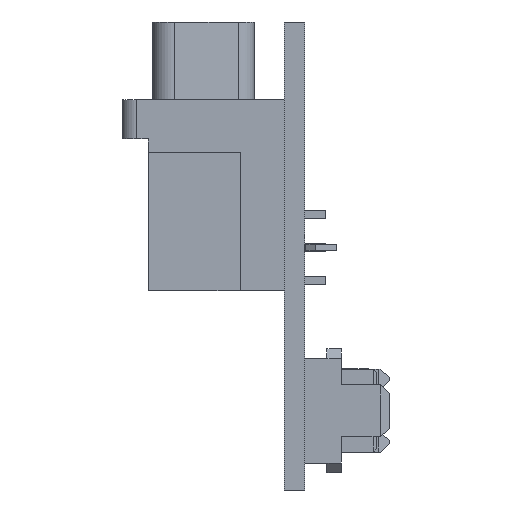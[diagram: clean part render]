
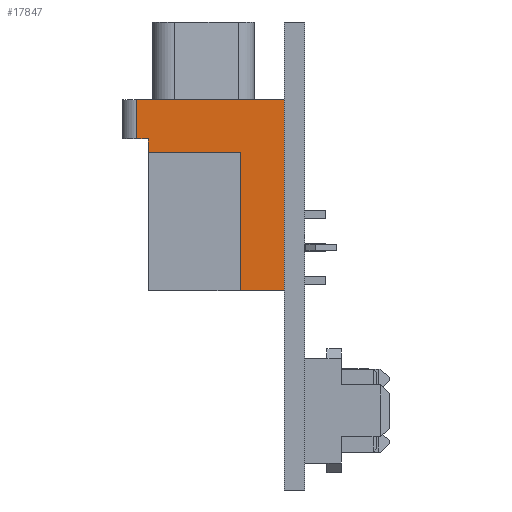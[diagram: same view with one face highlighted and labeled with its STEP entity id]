
A CAD part, front view. The second image highlights one B-rep face of the part: STEP entity #17847.
In plain terms, the highlighted planar face has unit normal (0, -1, 0).
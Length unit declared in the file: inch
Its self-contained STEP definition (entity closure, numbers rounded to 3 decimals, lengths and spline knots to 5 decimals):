
#1069=DIRECTION('',(0.,0.,1.));
#1070=VECTOR('',#1069,0.582);
#1071=CARTESIAN_POINT('',(0.,1.50148,0.43064));
#1072=LINE('',#1071,#1070);
#5005=DIRECTION('',(1.,0.,0.));
#5006=VECTOR('',#5005,0.134);
#5007=CARTESIAN_POINT('',(-0.134,1.50148,0.43064));
#5008=LINE('',#5007,#5006);
#5025=DIRECTION('',(1.,0.,0.));
#5026=VECTOR('',#5025,0.449);
#5027=CARTESIAN_POINT('',(-0.449,1.50148,1.01264));
#5028=LINE('',#5027,#5026);
#5093=DIRECTION('',(0.,0.,1.));
#5094=VECTOR('',#5093,0.422);
#5095=CARTESIAN_POINT('',(-0.134,1.50148,0.43064));
#5096=LINE('',#5095,#5094);
#5097=DIRECTION('',(-1.,0.,0.));
#5098=VECTOR('',#5097,0.28);
#5099=CARTESIAN_POINT('',(-0.134,1.50148,0.85264));
#5100=LINE('',#5099,#5098);
#5101=DIRECTION('',(0.,0.,1.));
#5102=VECTOR('',#5101,0.04);
#5103=CARTESIAN_POINT('',(-0.414,1.50148,0.85264));
#5104=LINE('',#5103,#5102);
#5105=DIRECTION('',(1.,0.,0.));
#5106=VECTOR('',#5105,0.035);
#5107=CARTESIAN_POINT('',(-0.449,1.50148,0.89264));
#5108=LINE('',#5107,#5106);
#5268=DIRECTION('',(0.,0.,-1.));
#5269=VECTOR('',#5268,0.12);
#5270=CARTESIAN_POINT('',(-0.449,1.50148,1.01264));
#5271=LINE('',#5270,#5269);
#8393=CARTESIAN_POINT('',(-0.414,1.50148,0.89264));
#8395=VERTEX_POINT('',#8393);
#8397=CARTESIAN_POINT('',(-0.134,1.50148,0.43064));
#8399=VERTEX_POINT('',#8397);
#8409=CARTESIAN_POINT('',(-0.134,1.50148,0.85264));
#8410=VERTEX_POINT('',#8409);
#8411=CARTESIAN_POINT('',(-0.414,1.50148,0.85264));
#8412=VERTEX_POINT('',#8411);
#8727=CARTESIAN_POINT('',(-0.449,1.50148,1.01264));
#8728=VERTEX_POINT('',#8727);
#8729=CARTESIAN_POINT('',(-0.449,1.50148,0.89264));
#8730=VERTEX_POINT('',#8729);
#8731=CARTESIAN_POINT('',(0.,1.50148,0.43064));
#8733=VERTEX_POINT('',#8731);
#8735=CARTESIAN_POINT('',(0.,1.50148,1.01264));
#8737=VERTEX_POINT('',#8735);
#17827=CARTESIAN_POINT('',(-0.494,1.50148,0.43064));
#17828=DIRECTION('',(0.,-1.,0.));
#17829=DIRECTION('',(1.,0.,0.));
#17830=AXIS2_PLACEMENT_3D('',#17827,#17828,#17829);
#17831=PLANE('',#17830);
#17832=ORIENTED_EDGE('',*,*,#11577,.F.);
#17833=ORIENTED_EDGE('',*,*,#17752,.F.);
#17835=ORIENTED_EDGE('',*,*,#17834,.T.);
#17837=ORIENTED_EDGE('',*,*,#17836,.T.);
#17839=ORIENTED_EDGE('',*,*,#17838,.T.);
#17841=ORIENTED_EDGE('',*,*,#17840,.F.);
#17843=ORIENTED_EDGE('',*,*,#17842,.F.);
#17844=ORIENTED_EDGE('',*,*,#17784,.T.);
#17845=EDGE_LOOP('',(#17832,#17833,#17835,#17837,#17839,#17841,#17843,#17844));
#17846=FACE_OUTER_BOUND('',#17845,.F.);
#17847=ADVANCED_FACE('',(#17846),#17831,.T.);
#11577=EDGE_CURVE('',#8733,#8737,#1072,.T.);
#17752=EDGE_CURVE('',#8399,#8733,#5008,.T.);
#17784=EDGE_CURVE('',#8728,#8737,#5028,.T.);
#17834=EDGE_CURVE('',#8399,#8410,#5096,.T.);
#17836=EDGE_CURVE('',#8410,#8412,#5100,.T.);
#17838=EDGE_CURVE('',#8412,#8395,#5104,.T.);
#17840=EDGE_CURVE('',#8730,#8395,#5108,.T.);
#17842=EDGE_CURVE('',#8728,#8730,#5271,.T.);
